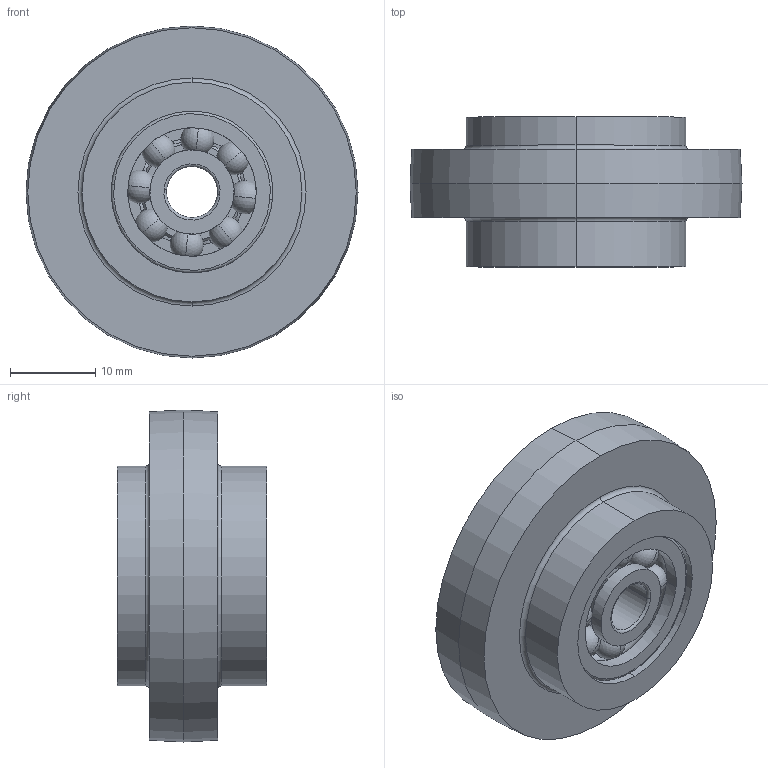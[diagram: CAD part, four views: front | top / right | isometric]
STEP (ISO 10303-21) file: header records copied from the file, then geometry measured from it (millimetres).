
FILE_DESCRIPTION (( 'STEP AP214' ), '1' );
FILE_NAME ('093020.STEP', '2013-05-17T07:32:43', ( 'User' ), ( '' ), 'SwSTEP 2.0', 'SolidWorks 2012', '' );
FILE_SCHEMA (( 'AUTOMOTIVE_DESIGN' ));
Length unit declared in the file: millimetre
Products named in the file (5): 340me012_Standard; Radial Ball Bearing_68_DIN_DIN 625 - 626 - 8,DE,NC,8_68; 340me014_Standard; 093020; 093020r_Standard
Assembly tree (5 placements, depth 3):
  093020
    093020r_Standard
    340me014_Standard  x2
      Radial Ball Bearing_68_DIN_DIN 625 - 626 - 8,DE,NC,8_68
    340me012_Standard
Bounding box: 39 x 17.6 x 39 mm (x, y, z)
Volume: 12624.3 mm3; surface area: 8306 mm2
Topology: 4 solids, 4 shells, 166 faces, 596 edges, 382 vertices
Faces by surface type: torus 68, cylinder 38, sphere 32, plane 16, cone 12
Entity records: 4186 total; most frequent: CARTESIAN_POINT 1301, ORIENTED_EDGE 608, DIRECTION 568, EDGE_CURVE 304, AXIS2_PLACEMENT_3D 265, VERTEX_POINT 198, CIRCLE 154, EDGE_LOOP 114
